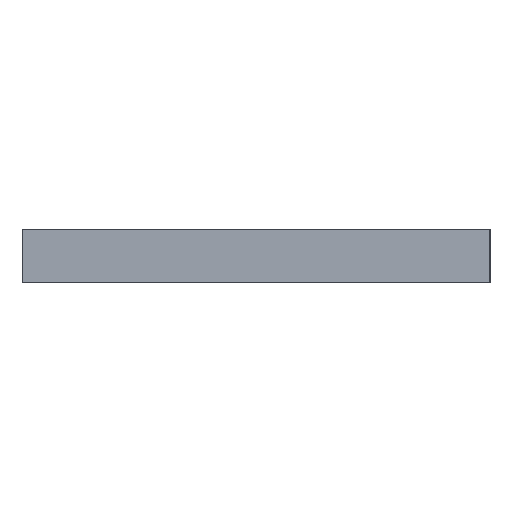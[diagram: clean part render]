
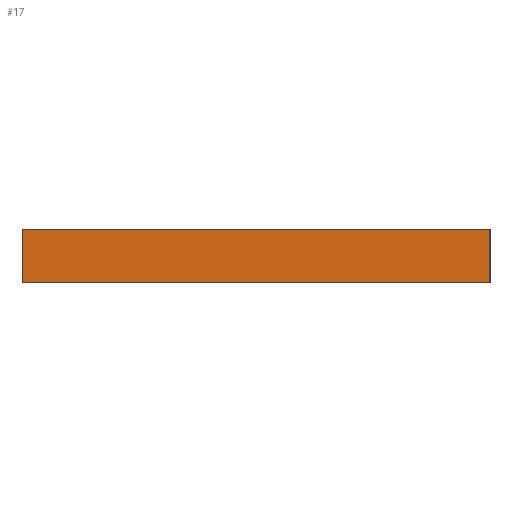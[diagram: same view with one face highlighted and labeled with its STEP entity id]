
A CAD part, left-side view. The second image highlights one B-rep face of the part: STEP entity #17.
In plain terms, the highlighted planar face has unit normal (-1, 0, 0).
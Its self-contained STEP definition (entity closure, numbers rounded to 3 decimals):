
#17 = ADVANCED_FACE('',(#18),#32,.F.);
#18 = FACE_BOUND('',#19,.T.);
#19 = EDGE_LOOP('',(#20,#55,#83,#111));
#20 = ORIENTED_EDGE('',*,*,#21,.F.);
#21 = EDGE_CURVE('',#22,#24,#26,.T.);
#22 = VERTEX_POINT('',#23);
#23 = CARTESIAN_POINT('',(-37.,45.5,157.));
#24 = VERTEX_POINT('',#25);
#25 = CARTESIAN_POINT('',(-37.,10.5,157.));
#26 = SURFACE_CURVE('',#27,(#31,#43),.PCURVE_S1.);
#27 = LINE('',#28,#29);
#28 = CARTESIAN_POINT('',(-37.,10.5,157.));
#29 = VECTOR('',#30,1.);
#30 = DIRECTION('',(0.,-1.,0.));
#31 = PCURVE('',#32,#37);
#32 = PLANE('',#33);
#33 = AXIS2_PLACEMENT_3D('',#34,#35,#36);
#34 = CARTESIAN_POINT('',(-37.,10.5,153.));
#35 = DIRECTION('',(1.,0.,0.));
#36 = DIRECTION('',(0.,0.,1.));
#37 = DEFINITIONAL_REPRESENTATION('',(#38),#42);
#38 = LINE('',#39,#40);
#39 = CARTESIAN_POINT('',(4.,0.));
#40 = VECTOR('',#41,1.);
#41 = DIRECTION('',(0.,1.));
#42 = ( GEOMETRIC_REPRESENTATION_CONTEXT(2) 
PARAMETRIC_REPRESENTATION_CONTEXT() REPRESENTATION_CONTEXT('2D SPACE',''
  ) );
#43 = PCURVE('',#44,#49);
#44 = PLANE('',#45);
#45 = AXIS2_PLACEMENT_3D('',#46,#47,#48);
#46 = CARTESIAN_POINT('',(-37.,10.5,157.));
#47 = DIRECTION('',(0.,0.,1.));
#48 = DIRECTION('',(1.,0.,0.));
#49 = DEFINITIONAL_REPRESENTATION('',(#50),#54);
#50 = LINE('',#51,#52);
#51 = CARTESIAN_POINT('',(0.,0.));
#52 = VECTOR('',#53,1.);
#53 = DIRECTION('',(0.,-1.));
#54 = ( GEOMETRIC_REPRESENTATION_CONTEXT(2) 
PARAMETRIC_REPRESENTATION_CONTEXT() REPRESENTATION_CONTEXT('2D SPACE',''
  ) );
#55 = ORIENTED_EDGE('',*,*,#56,.F.);
#56 = EDGE_CURVE('',#57,#22,#59,.T.);
#57 = VERTEX_POINT('',#58);
#58 = CARTESIAN_POINT('',(-37.,45.5,153.));
#59 = SURFACE_CURVE('',#60,(#64,#71),.PCURVE_S1.);
#60 = LINE('',#61,#62);
#61 = CARTESIAN_POINT('',(-37.,45.5,153.));
#62 = VECTOR('',#63,1.);
#63 = DIRECTION('',(0.,0.,1.));
#64 = PCURVE('',#32,#65);
#65 = DEFINITIONAL_REPRESENTATION('',(#66),#70);
#66 = LINE('',#67,#68);
#67 = CARTESIAN_POINT('',(0.,-35.));
#68 = VECTOR('',#69,1.);
#69 = DIRECTION('',(1.,0.));
#70 = ( GEOMETRIC_REPRESENTATION_CONTEXT(2) 
PARAMETRIC_REPRESENTATION_CONTEXT() REPRESENTATION_CONTEXT('2D SPACE',''
  ) );
#71 = PCURVE('',#72,#77);
#72 = PLANE('',#73);
#73 = AXIS2_PLACEMENT_3D('',#74,#75,#76);
#74 = CARTESIAN_POINT('',(-37.,45.5,153.));
#75 = DIRECTION('',(0.,1.,0.));
#76 = DIRECTION('',(0.,0.,1.));
#77 = DEFINITIONAL_REPRESENTATION('',(#78),#82);
#78 = LINE('',#79,#80);
#79 = CARTESIAN_POINT('',(0.,0.));
#80 = VECTOR('',#81,1.);
#81 = DIRECTION('',(1.,0.));
#82 = ( GEOMETRIC_REPRESENTATION_CONTEXT(2) 
PARAMETRIC_REPRESENTATION_CONTEXT() REPRESENTATION_CONTEXT('2D SPACE',''
  ) );
#83 = ORIENTED_EDGE('',*,*,#84,.F.);
#84 = EDGE_CURVE('',#85,#57,#87,.T.);
#85 = VERTEX_POINT('',#86);
#86 = CARTESIAN_POINT('',(-37.,10.5,153.));
#87 = SURFACE_CURVE('',#88,(#92,#99),.PCURVE_S1.);
#88 = LINE('',#89,#90);
#89 = CARTESIAN_POINT('',(-37.,10.5,153.));
#90 = VECTOR('',#91,1.);
#91 = DIRECTION('',(0.,1.,0.));
#92 = PCURVE('',#32,#93);
#93 = DEFINITIONAL_REPRESENTATION('',(#94),#98);
#94 = LINE('',#95,#96);
#95 = CARTESIAN_POINT('',(0.,0.));
#96 = VECTOR('',#97,1.);
#97 = DIRECTION('',(0.,-1.));
#98 = ( GEOMETRIC_REPRESENTATION_CONTEXT(2) 
PARAMETRIC_REPRESENTATION_CONTEXT() REPRESENTATION_CONTEXT('2D SPACE',''
  ) );
#99 = PCURVE('',#100,#105);
#100 = PLANE('',#101);
#101 = AXIS2_PLACEMENT_3D('',#102,#103,#104);
#102 = CARTESIAN_POINT('',(-37.,10.5,153.));
#103 = DIRECTION('',(0.,0.,1.));
#104 = DIRECTION('',(1.,0.,0.));
#105 = DEFINITIONAL_REPRESENTATION('',(#106),#110);
#106 = LINE('',#107,#108);
#107 = CARTESIAN_POINT('',(0.,0.));
#108 = VECTOR('',#109,1.);
#109 = DIRECTION('',(0.,1.));
#110 = ( GEOMETRIC_REPRESENTATION_CONTEXT(2) 
PARAMETRIC_REPRESENTATION_CONTEXT() REPRESENTATION_CONTEXT('2D SPACE',''
  ) );
#111 = ORIENTED_EDGE('',*,*,#112,.T.);
#112 = EDGE_CURVE('',#85,#24,#113,.T.);
#113 = SURFACE_CURVE('',#114,(#118,#125),.PCURVE_S1.);
#114 = LINE('',#115,#116);
#115 = CARTESIAN_POINT('',(-37.,10.5,153.));
#116 = VECTOR('',#117,1.);
#117 = DIRECTION('',(0.,0.,1.));
#118 = PCURVE('',#32,#119);
#119 = DEFINITIONAL_REPRESENTATION('',(#120),#124);
#120 = LINE('',#121,#122);
#121 = CARTESIAN_POINT('',(0.,0.));
#122 = VECTOR('',#123,1.);
#123 = DIRECTION('',(1.,0.));
#124 = ( GEOMETRIC_REPRESENTATION_CONTEXT(2) 
PARAMETRIC_REPRESENTATION_CONTEXT() REPRESENTATION_CONTEXT('2D SPACE',''
  ) );
#125 = PCURVE('',#126,#131);
#126 = PLANE('',#127);
#127 = AXIS2_PLACEMENT_3D('',#128,#129,#130);
#128 = CARTESIAN_POINT('',(-37.,10.5,153.));
#129 = DIRECTION('',(0.,1.,0.));
#130 = DIRECTION('',(0.,0.,1.));
#131 = DEFINITIONAL_REPRESENTATION('',(#132),#136);
#132 = LINE('',#133,#134);
#133 = CARTESIAN_POINT('',(0.,0.));
#134 = VECTOR('',#135,1.);
#135 = DIRECTION('',(1.,0.));
#136 = ( GEOMETRIC_REPRESENTATION_CONTEXT(2) 
PARAMETRIC_REPRESENTATION_CONTEXT() REPRESENTATION_CONTEXT('2D SPACE',''
  ) );
